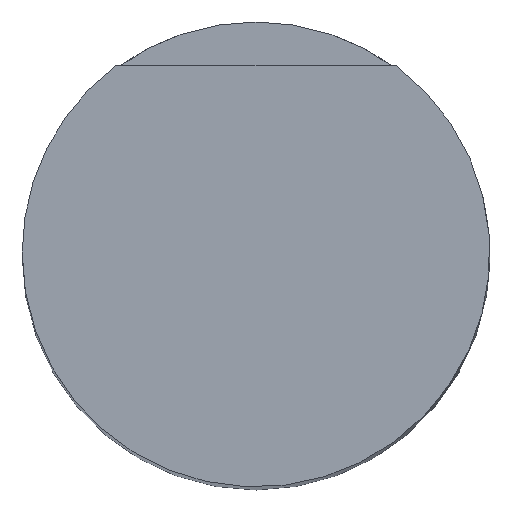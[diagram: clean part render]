
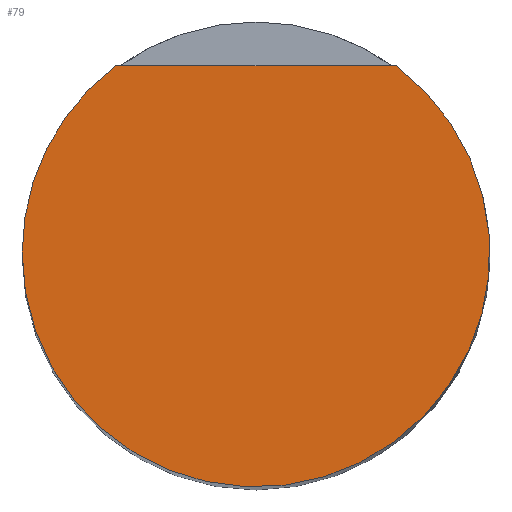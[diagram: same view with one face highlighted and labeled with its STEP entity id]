
A CAD part, top view. The second image highlights one B-rep face of the part: STEP entity #79.
In plain terms, the highlighted planar face has unit normal (0, 0, 1).
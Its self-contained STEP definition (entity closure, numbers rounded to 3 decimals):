
#17=CIRCLE('',#100,2.5);
#18=CIRCLE('',#101,2.5);
#22=FACE_OUTER_BOUND('',#27,.T.);
#27=EDGE_LOOP('',(#61,#62,#63));
#30=LINE('',#134,#35);
#35=VECTOR('',#109,10.);
#40=VERTEX_POINT('',#132);
#41=VERTEX_POINT('',#133);
#44=VERTEX_POINT('',#143);
#46=EDGE_CURVE('',#40,#41,#30,.T.);
#51=EDGE_CURVE('',#41,#44,#17,.T.);
#52=EDGE_CURVE('',#44,#40,#18,.T.);
#61=ORIENTED_EDGE('',*,*,#46,.T.);
#62=ORIENTED_EDGE('',*,*,#51,.T.);
#63=ORIENTED_EDGE('',*,*,#52,.T.);
#75=PLANE('',#99);
#79=ADVANCED_FACE('',(#22),#75,.T.);
#99=AXIS2_PLACEMENT_3D('',#142,#117,#118);
#100=AXIS2_PLACEMENT_3D('',#144,#119,#120);
#101=AXIS2_PLACEMENT_3D('',#145,#121,#122);
#109=DIRECTION('',(-1.,0.,0.));
#117=DIRECTION('center_axis',(0.,0.,1.));
#118=DIRECTION('ref_axis',(1.,0.,0.));
#119=DIRECTION('center_axis',(0.,0.,1.));
#120=DIRECTION('ref_axis',(1.,0.,0.));
#121=DIRECTION('center_axis',(0.,0.,1.));
#122=DIRECTION('ref_axis',(1.,0.,0.));
#132=CARTESIAN_POINT('',(117.224,215.53,352.9));
#133=CARTESIAN_POINT('',(114.224,215.53,352.9));
#134=CARTESIAN_POINT('',(116.474,215.53,352.9));
#142=CARTESIAN_POINT('Origin',(115.724,213.53,352.9));
#143=CARTESIAN_POINT('',(113.224,213.53,352.9));
#144=CARTESIAN_POINT('Origin',(115.724,213.53,352.9));
#145=CARTESIAN_POINT('Origin',(115.724,213.53,352.9));
